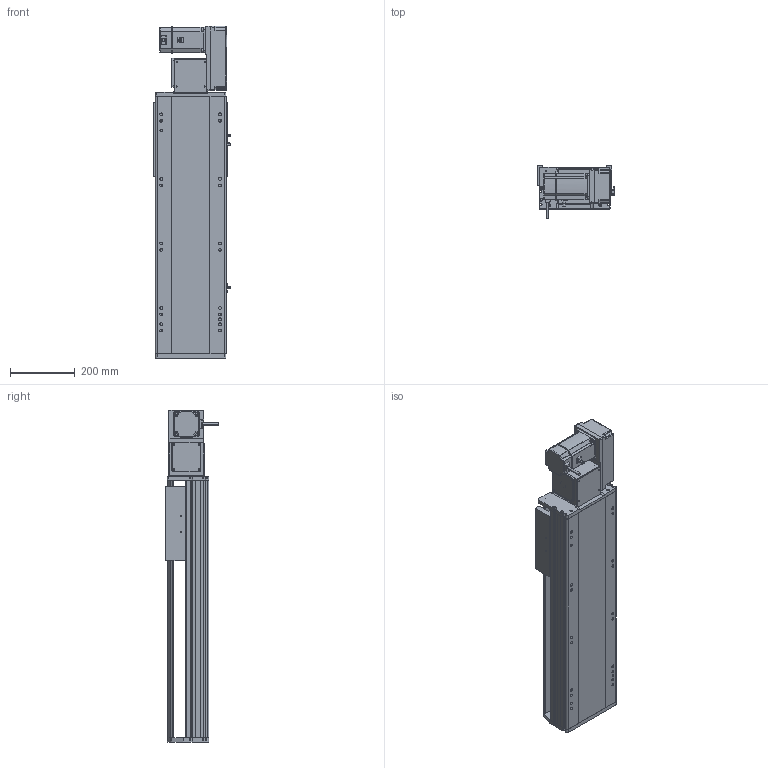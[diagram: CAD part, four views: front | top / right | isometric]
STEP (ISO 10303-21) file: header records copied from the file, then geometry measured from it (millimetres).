
FILE_DESCRIPTION (( 'STEP AP214' ), '1' );
FILE_NAME ('RTB22S-XX-450-R-M75-C4.STEP', '2025-12-12T07:14:51', ( '' ), ( '' ), 'SwSTEP 2.0', 'SolidWorks 2018', '' );
FILE_SCHEMA (( 'AUTOMOTIVE_DESIGN' ));
Length unit declared in the file: millimetre
Products named in the file (14): RTB22S-GY-014--々湍釱^RTB22S-R-々湍釱蚾饜_RTB22S-XX-XX-R-M75-C4; RTB22S-L-004賑釱^RTB22S-XX-XX-R-M75-C4; RTB22S-GY-001耜裔^RTB22S-XX-XX-R-M75-C4; RTB22S-GY-018P^RTB22S-R-々湍釱蚾饜_RTB22S-XX-XX-R-M75-C4; OMRON EE-SX672 传感器^RTB22S-XX-XX-R-M75-C4; RTB22S-GY-005P^RTB22S-R-々湍釱蚾饜_RTB22S-XX-XX-R-M75-C4; RTB22S-GY-017P^RTB22S-R-々湍釱蚾饜_RTB22S-XX-XX-R-M75-C4; RTB22S-XX-450-R-M75-C4; RTB22S-GY-008-M75--萇儂啣^RTB22S-R-々湍釱蚾饜_RTB22S-XX-XX-R-M75-C4; RTH22-GY-013外置感应片^RTB22S-XX-XX-R-M75-C4; 750W萇儂^RTB22S-XX-XX-R-M75-C4; RTB22S-L-011菁釱^RTB22S-XX-XX-R-M75-C4; RTB22S-R-々湍釱蚾饜^RTB22S-XX-XX-R-M75-C4; RTB22S-GY-007奻裔^RTB22S-XX-XX-R-M75-C4
Assembly tree (16 placements, depth 3):
  RTB22S-XX-450-R-M75-C4
    RTB22S-L-011菁釱^RTB22S-XX-XX-R-M75-C4
    RTB22S-GY-001耜裔^RTB22S-XX-XX-R-M75-C4
    750W萇儂^RTB22S-XX-XX-R-M75-C4
    RTB22S-GY-007奻裔^RTB22S-XX-XX-R-M75-C4
    RTB22S-L-004賑釱^RTB22S-XX-XX-R-M75-C4
    RTH22-GY-013外置感应片^RTB22S-XX-XX-R-M75-C4
    OMRON EE-SX672 传感器^RTB22S-XX-XX-R-M75-C4  x3
    RTB22S-R-々湍釱蚾饜^RTB22S-XX-XX-R-M75-C4
      RTB22S-GY-014--々湍釱^RTB22S-R-々湍釱蚾饜_RTB22S-XX-XX-R-M75-C4
      RTB22S-GY-017P^RTB22S-R-々湍釱蚾饜_RTB22S-XX-XX-R-M75-C4  x2
      RTB22S-GY-005P^RTB22S-R-々湍釱蚾饜_RTB22S-XX-XX-R-M75-C4
      RTB22S-GY-008-M75--萇儂啣^RTB22S-R-々湍釱蚾饜_RTB22S-XX-XX-R-M75-C4
      RTB22S-GY-018P^RTB22S-R-々湍釱蚾饜_RTB22S-XX-XX-R-M75-C4
Bounding box: 238.5 x 162.7 x 1029 mm (x, y, z)
Volume: 14877943.2 mm3; surface area: 1576727.2 mm2
Topology: 15 solids, 15 shells, 1929 faces, 5236 edges, 3362 vertices
Faces by surface type: plane 909, cylinder 586, bspline 296, cone 126, sphere 8, torus 4
Entity records: 50794 total; most frequent: CARTESIAN_POINT 14728, ORIENTED_EDGE 7284, DIRECTION 6956, EDGE_CURVE 3642, AXIS2_PLACEMENT_3D 2434, VERTEX_POINT 2366, VECTOR 2088, LINE 2088
